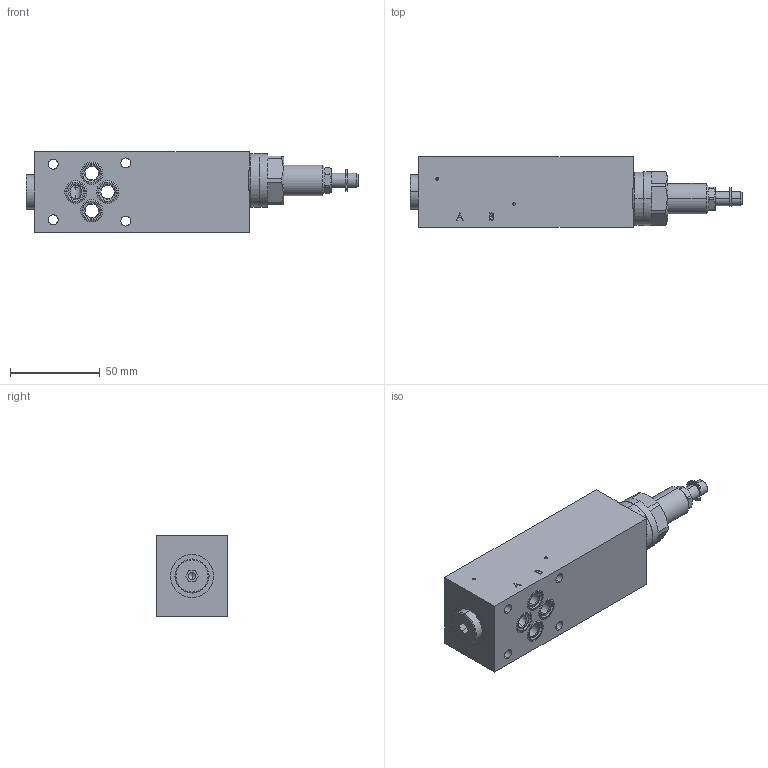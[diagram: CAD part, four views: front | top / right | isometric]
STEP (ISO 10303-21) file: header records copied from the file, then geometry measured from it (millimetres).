
FILE_DESCRIPTION (( 'STEP AP214' ), '1' );
FILE_NAME ('USSSA06-P.STEP', '2017-03-23T07:01:11', ( '' ), ( '' ), 'SwSTEP 2.0', 'SolidWorks 2016', '' );
FILE_SCHEMA (( 'AUTOMOTIVE_DESIGN' ));
Length unit declared in the file: millimetre
Products named in the file (1): USSSA06-P
Bounding box: 185.4 x 39.5 x 45 mm (x, y, z)
Volume: 222177.8 mm3; surface area: 38069.5 mm2
Topology: 11 solids, 16 shells, 436 faces, 1056 edges, 652 vertices
Faces by surface type: cylinder 153, plane 123, cone 89, bspline 41, sphere 20, torus 10
Entity records: 18635 total; most frequent: CARTESIAN_POINT 3606, DIRECTION 2209, ORIENTED_EDGE 2048, EDGE_CURVE 1024, AXIS2_PLACEMENT_3D 899, VERTEX_POINT 652, CIRCLE 503, EDGE_LOOP 492
